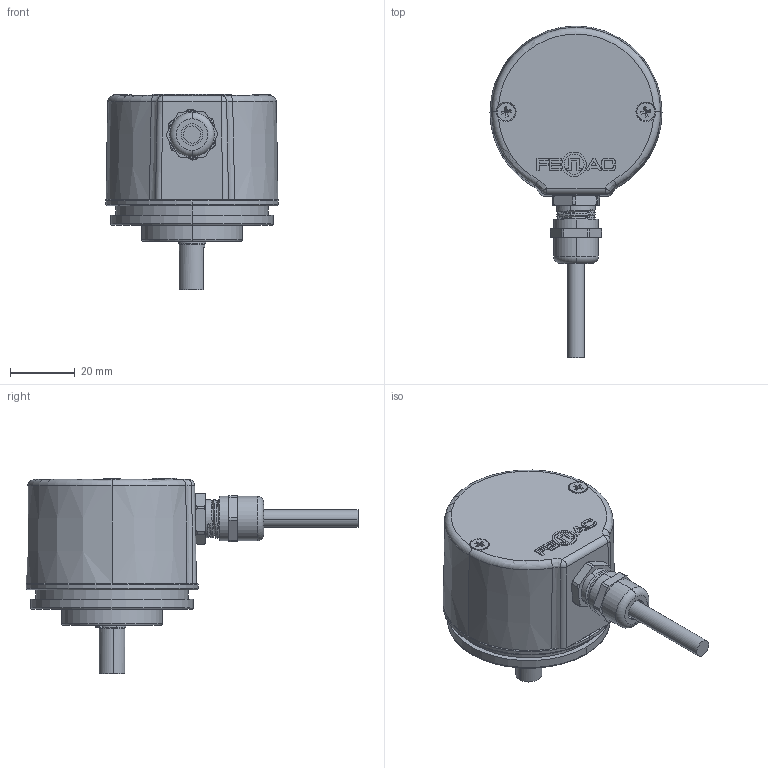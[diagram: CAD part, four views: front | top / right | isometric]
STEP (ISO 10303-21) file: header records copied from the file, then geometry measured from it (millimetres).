
FILE_DESCRIPTION (( 'STEP AP214' ), '1' );
FILE_NAME ('50B8-M..STEP', '2018-06-06T12:05:40', ( '' ), ( '' ), 'SwSTEP 2.0', 'SolidWorks 2017', '' );
FILE_SCHEMA (( 'AUTOMOTIVE_DESIGN' ));
Length unit declared in the file: millimetre
Products named in the file (1): 50B8-M.
Bounding box: 53 x 102.3 x 60.1 mm (x, y, z)
Volume: 52302 mm3; surface area: 29761.5 mm2
Topology: 2 solids, 11 shells, 1136 faces, 2940 edges, 1836 vertices
Faces by surface type: cone 446, cylinder 385, plane 192, bspline 58, torus 53, sphere 2
Entity records: 37655 total; most frequent: CARTESIAN_POINT 9325, DIRECTION 6314, ORIENTED_EDGE 5880, EDGE_CURVE 2940, AXIS2_PLACEMENT_3D 2558, VERTEX_POINT 1836, CIRCLE 1479, VECTOR 1198
